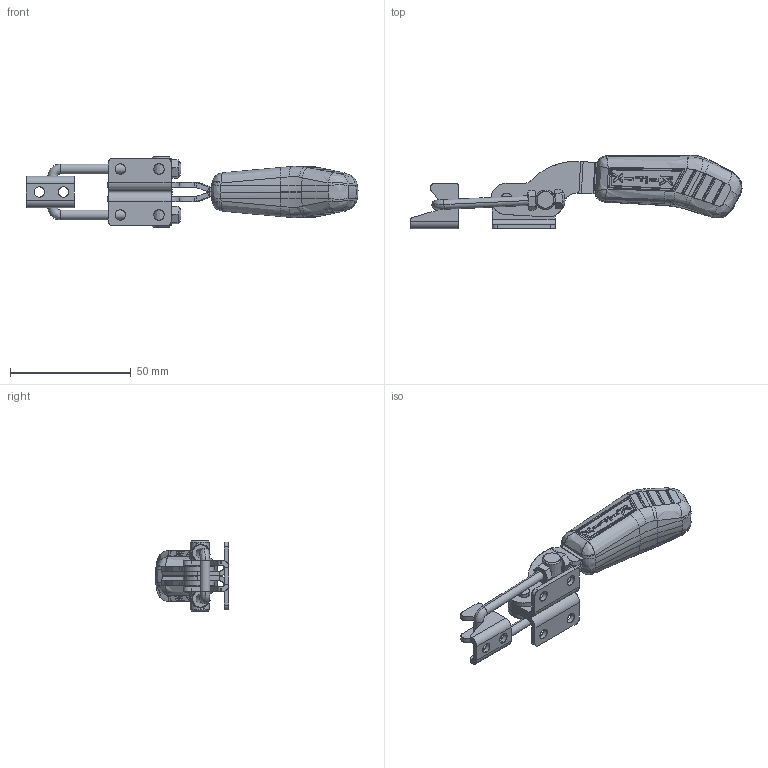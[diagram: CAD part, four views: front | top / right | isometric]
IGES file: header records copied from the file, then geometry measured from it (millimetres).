
Start section: SolidWorks IGES file using analytic representation for surfaces
Global section: file name: C:\Projetos\Grampos\KF-233\KF-233 D\KF-233 D.IGS; native system: SolidWorks 2014; preprocessor: SolidWorks 2014; author: Ricardo; date: 141106.085209; units: millimetre
Bounding box: 137.25 x 30.56 x 29 mm (x, y, z)
Surface area: 19755.7 mm2 (no closed solid volume)
Topology: 0 solids, 0 shells, 882 faces, 9067 edges, 9013 vertices
Faces by surface type: bspline 526, revolution 356
